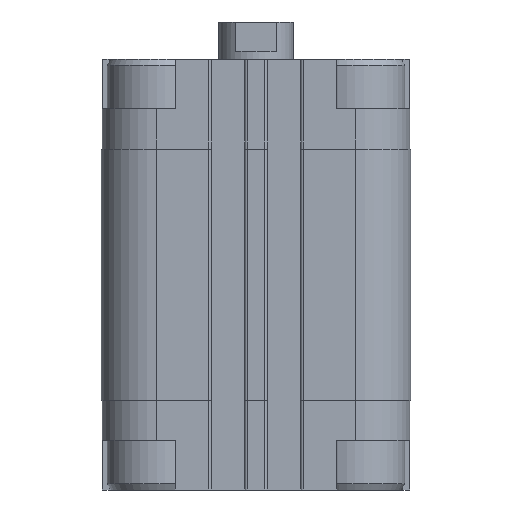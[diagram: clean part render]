
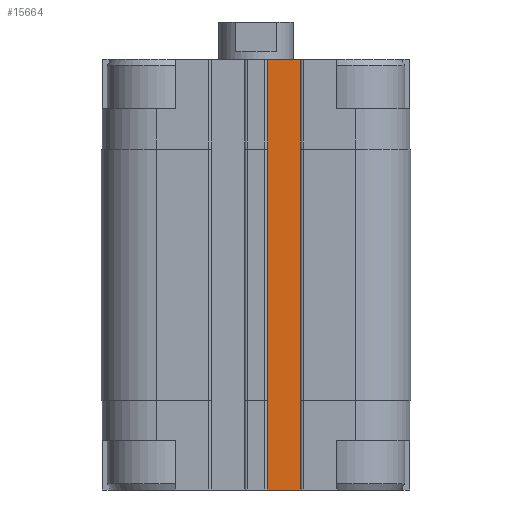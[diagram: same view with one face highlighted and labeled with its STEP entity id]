
A CAD part, front view. The second image highlights one B-rep face of the part: STEP entity #15664.
In plain terms, the highlighted planar face has unit normal (0, -1, 0).
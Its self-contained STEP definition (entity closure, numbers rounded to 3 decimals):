
#1590 = LINE ( 'NONE', #8885, #21519 ) ;
#2309 = CARTESIAN_POINT ( 'NONE',  ( 7.5, -19.9, 0. ) ) ;
#2537 = CARTESIAN_POINT ( 'NONE',  ( 1.5, -19.9, -69.5 ) ) ;
#3296 = EDGE_CURVE ( 'NONE', #9820, #13922, #6865, .T. ) ;
#5097 = DIRECTION ( 'NONE',  ( -1., 0., 0. ) ) ;
#5288 = VERTEX_POINT ( 'NONE', #8839 ) ;
#5395 = CARTESIAN_POINT ( 'NONE',  ( 1.5, -19.9, -69.5 ) ) ;
#6337 = VECTOR ( 'NONE', #7084, 1000. ) ;
#6865 = LINE ( 'NONE', #14140, #6337 ) ;
#7084 = DIRECTION ( 'NONE',  ( 0., 0., 1. ) ) ;
#7159 = CARTESIAN_POINT ( 'NONE',  ( 1.5, -19.9, -14.5 ) ) ;
#7523 = CARTESIAN_POINT ( 'NONE',  ( 7.5, -19.9, -69.5 ) ) ;
#8589 = VERTEX_POINT ( 'NONE', #5395 ) ;
#8839 = CARTESIAN_POINT ( 'NONE',  ( 1.5, -19.9, 0. ) ) ;
#8885 = CARTESIAN_POINT ( 'NONE',  ( 1.5, -19.9, 0. ) ) ;
#9397 = DIRECTION ( 'NONE',  ( 1., 0., 0. ) ) ;
#9820 = VERTEX_POINT ( 'NONE', #7523 ) ;
#9822 = ORIENTED_EDGE ( 'NONE', *, *, #3296, .T. ) ;
#9915 = CARTESIAN_POINT ( 'NONE',  ( 1.5, -19.9, -14.5 ) ) ;
#10113 = ORIENTED_EDGE ( 'NONE', *, *, #11673, .F. ) ;
#10341 = DIRECTION ( 'NONE',  ( 1., 0., 0. ) ) ;
#10429 = ORIENTED_EDGE ( 'NONE', *, *, #15196, .T. ) ;
#11177 = LINE ( 'NONE', #2537, #20161 ) ;
#11673 = EDGE_CURVE ( 'NONE', #5288, #13922, #1590, .T. ) ;
#11698 = PLANE ( 'NONE',  #15152 ) ;
#13922 = VERTEX_POINT ( 'NONE', #2309 ) ;
#13989 = DIRECTION ( 'NONE',  ( 0., 0., 1. ) ) ;
#14140 = CARTESIAN_POINT ( 'NONE',  ( 7.5, -19.9, -14.5 ) ) ;
#14324 = LINE ( 'NONE', #7159, #16213 ) ;
#15062 = EDGE_CURVE ( 'NONE', #8589, #5288, #14324, .T. ) ;
#15152 = AXIS2_PLACEMENT_3D ( 'NONE', #9915, #16760, #5097 ) ;
#15196 = EDGE_CURVE ( 'NONE', #8589, #9820, #11177, .T. ) ;
#15664 = ADVANCED_FACE ( 'NONE', ( #22040 ), #11698, .T. ) ;
#16213 = VECTOR ( 'NONE', #13989, 1000. ) ;
#16760 = DIRECTION ( 'NONE',  ( 0., -1., 0. ) ) ;
#20161 = VECTOR ( 'NONE', #9397, 1000. ) ;
#21018 = ORIENTED_EDGE ( 'NONE', *, *, #15062, .F. ) ;
#21519 = VECTOR ( 'NONE', #10341, 1000. ) ;
#21965 = EDGE_LOOP ( 'NONE', ( #10113, #21018, #10429, #9822 ) ) ;
#22040 = FACE_OUTER_BOUND ( 'NONE', #21965, .T. ) ;
